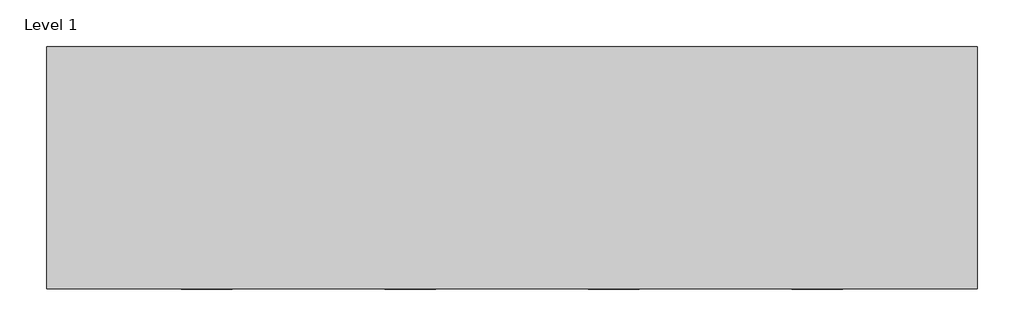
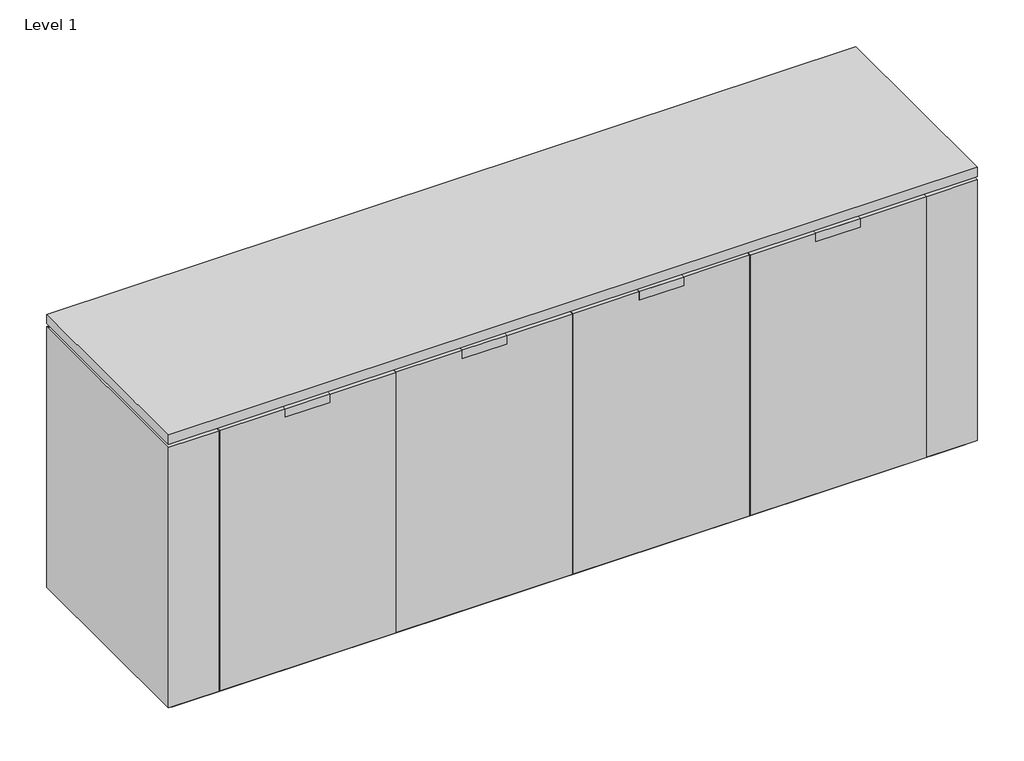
# One storey: 5 proxies.
"""IFC4 building model written with IfcOpenShell, lengths in millimetres."""

from ifc_helpers import new_model, si_unit, origin, place, context, project, spatial, transform, mapped, element, save
from components import generic_models_d2e6d8cc, pull_2518_0e440d19

model = new_model("IFC4")

# Units and contexts
model_context = context("Model", 3, world=origin())
ifc_project = project(units=[si_unit("LENGTHUNIT", "METRE", prefix="MILLI")], contexts=[model_context])

# Site, building, storey
site = spatial("IfcSite", under=ifc_project)
building = spatial("IfcBuilding", under=site)
storey = spatial("IfcBuildingStorey", under=building, Name="Level 1", Elevation=0.0)

# Proxies
placement = place(None, origin())
generic_models_shape = generic_models_d2e6d8cc(model_context)
element("IfcBuildingElementProxy", 1, Name="BASYS^CREDENZA 2_4 DOORS ROUND ENDS-PARTS SOLID", ObjectType="BASYS^CREDENZA 2_4 DOORS ROUND ENDS-PARTS SOLID", at=placement, inside=storey, context=model_context, shape_type="MappedRepresentation", body=[
    mapped(generic_models_shape, transform((0.0, -635.0, 858.8375), x_axis=(1.0, 0.0, 0.0), y_axis=(0.0, 0.0, 1.0), z_axis=(0.0, -1.0, 0.0))),
])
pull_2518_shape = pull_2518_0e440d19(model_context)
element("IfcBuildingElementProxy", 2, Name="PULL 2518", ObjectType="PULL 2518", at=placement, inside=storey, context=model_context, shape_type="MappedRepresentation", body=[
    mapped(pull_2518_shape, transform((838.2051693, -622.808, 909.4210192), x_axis=(1.0, 0.0, 0.0), y_axis=(0.0, 0.0, 1.0), z_axis=(0.0, -1.0, 0.0))),
])
element("IfcBuildingElementProxy", 3, Name="PULL 2518", ObjectType="PULL 2518", at=placement, inside=storey, context=model_context, shape_type="MappedRepresentation", body=[
    mapped(pull_2518_shape, transform((305.4004816, -622.808, 909.4210192), x_axis=(1.0, 0.0, 0.0), y_axis=(0.0, 0.0, 1.0), z_axis=(0.0, -1.0, 0.0))),
])
element("IfcBuildingElementProxy", 4, Name="PULL 2518", ObjectType="PULL 2518", at=placement, inside=storey, context=model_context, shape_type="MappedRepresentation", body=[
    mapped(pull_2518_shape, transform((1903.8145443, -622.808, 909.4210192), x_axis=(1.0, 0.0, 0.0), y_axis=(0.0, 0.0, 1.0), z_axis=(0.0, -1.0, 0.0))),
])
element("IfcBuildingElementProxy", 5, Name="PULL 2518", ObjectType="PULL 2518", at=placement, inside=storey, context=model_context, shape_type="MappedRepresentation", body=[
    mapped(pull_2518_shape, transform((1371.0098566, -622.808, 909.4210192), x_axis=(1.0, 0.0, 0.0), y_axis=(0.0, 0.0, 1.0), z_axis=(0.0, -1.0, 0.0))),
])

save(model, "model.ifc")
